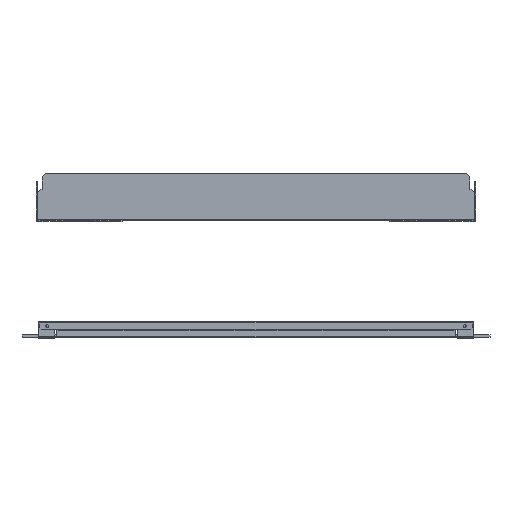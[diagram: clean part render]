
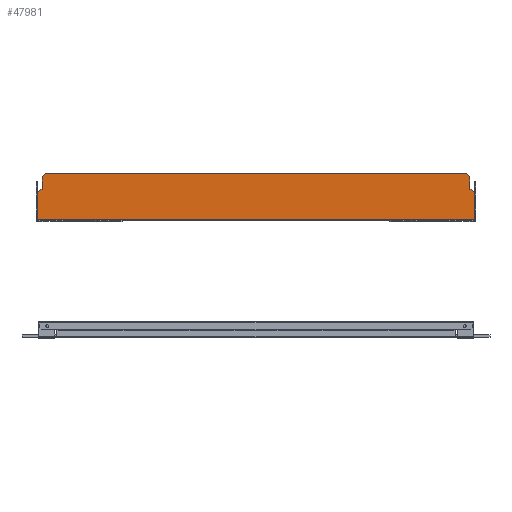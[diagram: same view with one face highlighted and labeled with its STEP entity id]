
A CAD part, front view. The second image highlights one B-rep face of the part: STEP entity #47981.
In plain terms, the highlighted planar face has unit normal (0, -1, 0).
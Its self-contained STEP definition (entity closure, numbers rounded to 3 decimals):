
#46066=CARTESIAN_POINT(' ',(347.5,108.5,0.6));
#46067=VERTEX_POINT(' ',#46066);
#46081=CARTESIAN_POINT(' ',(347.5,108.5,0.6));
#46086=DIRECTION(' ',(-1.,0.,0.));
#46091=VECTOR(' ',#46086,1.);
#46096=LINE('',#46081,#46091);
#46101=CARTESIAN_POINT(' ',(-347.5,108.5,0.6));
#46102=VERTEX_POINT(' ',#46101);
#46106=EDGE_CURVE(' ',#46067,#46102,#46096,.T.);
#46246=CARTESIAN_POINT(' ',(347.5,108.5,43.5));
#46247=VERTEX_POINT(' ',#46246);
#46261=CARTESIAN_POINT(' ',(347.5,108.5,43.5));
#46266=DIRECTION(' ',(0.,0.,-1.));
#46271=VECTOR(' ',#46266,1.);
#46276=LINE('',#46261,#46271);
#46281=EDGE_CURVE(' ',#46247,#46067,#46276,.T.);
#47051=CARTESIAN_POINT(' ',(-347.5,108.5,0.6));
#47056=DIRECTION(' ',(0.,0.,1.));
#47061=VECTOR(' ',#47056,1.);
#47066=LINE('',#47051,#47061);
#47071=CARTESIAN_POINT(' ',(-347.5,108.5,43.5));
#47072=VERTEX_POINT(' ',#47071);
#47076=EDGE_CURVE(' ',#46102,#47072,#47066,.T.);
#47621=DIRECTION(' ',(0.,-1.,0.));
#47626=CARTESIAN_POINT(' ',(-347.5,108.5,73.5));
#47631=DIRECTION(' ',(0.,0.,-1.));
#47636=AXIS2_PLACEMENT_3D(' ',#47626,#47621,#47631);
#47641=PLANE('NONE',#47636);
#47646=ORIENTED_EDGE(' ',*,*,#46281,.F.);
#47651=CARTESIAN_POINT(' ',(347.5,108.5,43.5));
#47656=DIRECTION(' ',(-0.707,0.,0.707));
#47661=VECTOR(' ',#47656,1.);
#47666=LINE('',#47651,#47661);
#47671=CARTESIAN_POINT(' ',(342.5,108.5,48.5));
#47672=VERTEX_POINT(' ',#47671);
#47676=EDGE_CURVE(' ',#46247,#47672,#47666,.T.);
#47681=ORIENTED_EDGE(' ',*,*,#47676,.T.);
#47686=CARTESIAN_POINT(' ',(340.5,108.5,48.5));
#47691=DIRECTION(' ',(1.,0.,0.));
#47696=VECTOR(' ',#47691,1.);
#47701=LINE('',#47686,#47696);
#47706=CARTESIAN_POINT(' ',(340.5,108.5,48.5));
#47707=VERTEX_POINT(' ',#47706);
#47711=EDGE_CURVE(' ',#47707,#47672,#47701,.T.);
#47716=ORIENTED_EDGE(' ',*,*,#47711,.F.);
#47721=CARTESIAN_POINT(' ',(340.5,108.5,48.5));
#47726=DIRECTION(' ',(0.,0.,1.));
#47731=VECTOR(' ',#47726,1.);
#47736=LINE('',#47721,#47731);
#47741=CARTESIAN_POINT(' ',(340.5,108.5,68.5));
#47742=VERTEX_POINT(' ',#47741);
#47746=EDGE_CURVE(' ',#47707,#47742,#47736,.T.);
#47751=ORIENTED_EDGE(' ',*,*,#47746,.T.);
#47756=CARTESIAN_POINT(' ',(340.5,108.5,68.5));
#47761=DIRECTION(' ',(-0.707,0.,0.707));
#47766=VECTOR(' ',#47761,1.);
#47771=LINE('',#47756,#47766);
#47776=CARTESIAN_POINT(' ',(335.5,108.5,73.5));
#47777=VERTEX_POINT(' ',#47776);
#47781=EDGE_CURVE(' ',#47742,#47777,#47771,.T.);
#47786=ORIENTED_EDGE(' ',*,*,#47781,.T.);
#47791=CARTESIAN_POINT(' ',(335.5,108.5,73.5));
#47796=DIRECTION(' ',(-1.,0.,0.));
#47801=VECTOR(' ',#47796,1.);
#47806=LINE('',#47791,#47801);
#47811=CARTESIAN_POINT(' ',(-335.5,108.5,73.5));
#47812=VERTEX_POINT(' ',#47811);
#47816=EDGE_CURVE(' ',#47777,#47812,#47806,.T.);
#47821=ORIENTED_EDGE(' ',*,*,#47816,.T.);
#47826=CARTESIAN_POINT(' ',(-335.5,108.5,73.5));
#47831=DIRECTION(' ',(-0.707,0.,-0.707));
#47836=VECTOR(' ',#47831,1.);
#47841=LINE('',#47826,#47836);
#47846=CARTESIAN_POINT(' ',(-340.5,108.5,68.5));
#47847=VERTEX_POINT(' ',#47846);
#47851=EDGE_CURVE(' ',#47812,#47847,#47841,.T.);
#47856=ORIENTED_EDGE(' ',*,*,#47851,.T.);
#47861=CARTESIAN_POINT(' ',(-340.5,108.5,48.5));
#47866=DIRECTION(' ',(0.,0.,1.));
#47871=VECTOR(' ',#47866,1.);
#47876=LINE('',#47861,#47871);
#47881=CARTESIAN_POINT(' ',(-340.5,108.5,48.5));
#47882=VERTEX_POINT(' ',#47881);
#47886=EDGE_CURVE(' ',#47882,#47847,#47876,.T.);
#47891=ORIENTED_EDGE(' ',*,*,#47886,.F.);
#47896=CARTESIAN_POINT(' ',(-340.5,108.5,48.5));
#47901=DIRECTION(' ',(-1.,0.,0.));
#47906=VECTOR(' ',#47901,1.);
#47911=LINE('',#47896,#47906);
#47916=CARTESIAN_POINT(' ',(-342.5,108.5,48.5));
#47917=VERTEX_POINT(' ',#47916);
#47921=EDGE_CURVE(' ',#47882,#47917,#47911,.T.);
#47926=ORIENTED_EDGE(' ',*,*,#47921,.T.);
#47931=CARTESIAN_POINT(' ',(-342.5,108.5,48.5));
#47936=DIRECTION(' ',(-0.707,0.,-0.707));
#47941=VECTOR(' ',#47936,1.);
#47946=LINE('',#47931,#47941);
#47951=EDGE_CURVE(' ',#47917,#47072,#47946,.T.);
#47956=ORIENTED_EDGE(' ',*,*,#47951,.T.);
#47961=ORIENTED_EDGE(' ',*,*,#47076,.F.);
#47966=ORIENTED_EDGE(' ',*,*,#46106,.F.);
#47971=EDGE_LOOP(' ',(#47646,#47681,#47716,#47751,#47786,#47821,#47856,#47891,#47926,#47956,#47961,#47966));
#47976=FACE_OUTER_BOUND(' ',#47971,.T.);
#47981=ADVANCED_FACE('NONE',(#47976),#47641,.T.);
